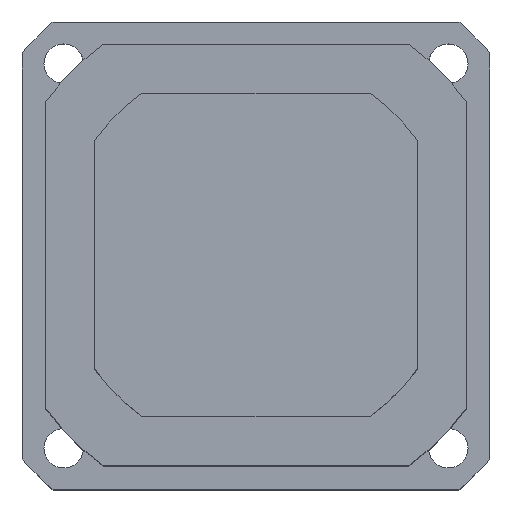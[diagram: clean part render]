
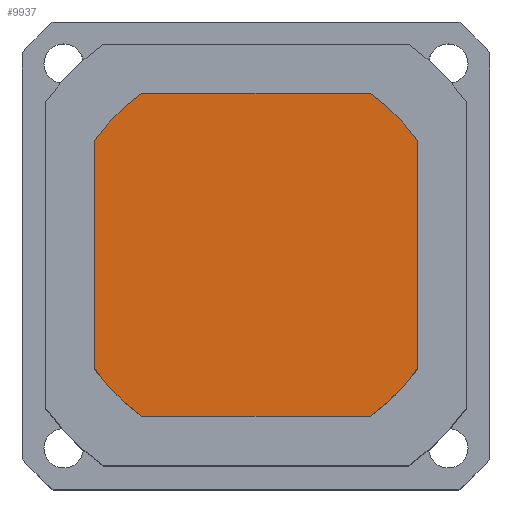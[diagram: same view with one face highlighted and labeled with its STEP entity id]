
A CAD part, top view. The second image highlights one B-rep face of the part: STEP entity #9937.
In plain terms, the highlighted planar face has unit normal (0, 0, 1).
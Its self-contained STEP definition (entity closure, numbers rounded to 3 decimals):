
#2366=CIRCLE('',#10841,60.);
#2367=CIRCLE('',#10843,60.);
#2368=CIRCLE('',#10845,60.);
#2369=CIRCLE('',#10847,60.);
#3330=VERTEX_POINT('',#15314);
#3331=VERTEX_POINT('',#15316);
#3332=VERTEX_POINT('',#15320);
#3333=VERTEX_POINT('',#15322);
#3338=VERTEX_POINT('',#15338);
#3339=VERTEX_POINT('',#15340);
#3340=VERTEX_POINT('',#15344);
#3341=VERTEX_POINT('',#15346);
#4299=LINE('',#15315,#11928);
#4302=LINE('',#15321,#11931);
#4305=LINE('',#15339,#11934);
#4308=LINE('',#15345,#11937);
#5333=EDGE_CURVE('',#3331,#3330,#4299,.T.);
#5336=EDGE_CURVE('',#3333,#3332,#4302,.T.);
#5343=EDGE_CURVE('',#3339,#3338,#4305,.T.);
#5346=EDGE_CURVE('',#3341,#3340,#4308,.T.);
#5348=EDGE_CURVE('',#3333,#3340,#2366,.T.);
#5349=EDGE_CURVE('',#3339,#3332,#2367,.T.);
#5350=EDGE_CURVE('',#3331,#3338,#2368,.T.);
#5351=EDGE_CURVE('',#3341,#3330,#2369,.T.);
#7528=ORIENTED_EDGE('',*,*,#5333,.T.);
#7529=ORIENTED_EDGE('',*,*,#5351,.F.);
#7530=ORIENTED_EDGE('',*,*,#5346,.T.);
#7531=ORIENTED_EDGE('',*,*,#5348,.F.);
#7532=ORIENTED_EDGE('',*,*,#5336,.T.);
#7533=ORIENTED_EDGE('',*,*,#5349,.F.);
#7534=ORIENTED_EDGE('',*,*,#5343,.T.);
#7535=ORIENTED_EDGE('',*,*,#5350,.F.);
#8723=EDGE_LOOP('',(#7528,#7529,#7530,#7531,#7532,#7533,#7534,#7535));
#9387=FACE_BOUND('',#8723,.T.);
#9937=ADVANCED_FACE('',(#9387),#12299,.F.);
#10841=AXIS2_PLACEMENT_3D('',#15349,#18685,#18686);
#10843=AXIS2_PLACEMENT_3D('',#15351,#18689,#18690);
#10845=AXIS2_PLACEMENT_3D('',#15353,#18693,#18694);
#10847=AXIS2_PLACEMENT_3D('',#15355,#18697,#18698);
#10848=AXIS2_PLACEMENT_3D('',#15356,#18699,$);
#11928=VECTOR('',#18655,1.);
#11931=VECTOR('',#18659,1.);
#11934=VECTOR('',#18677,1.);
#11937=VECTOR('',#18681,1.);
#12299=PLANE('',#10848);
#15314=CARTESIAN_POINT('',(-49.,-34.627,45.));
#15315=CARTESIAN_POINT('',(-49.,34.627,45.));
#15316=CARTESIAN_POINT('',(-49.,34.627,45.));
#15320=CARTESIAN_POINT('',(49.,34.627,45.));
#15321=CARTESIAN_POINT('',(49.,-34.627,45.));
#15322=CARTESIAN_POINT('',(49.,-34.627,45.));
#15338=CARTESIAN_POINT('',(-34.627,49.,45.));
#15339=CARTESIAN_POINT('',(34.627,49.,45.));
#15340=CARTESIAN_POINT('',(34.627,49.,45.));
#15344=CARTESIAN_POINT('',(34.627,-49.,45.));
#15345=CARTESIAN_POINT('',(-34.627,-49.,45.));
#15346=CARTESIAN_POINT('',(-34.627,-49.,45.));
#15349=CARTESIAN_POINT('',(0.,0.,45.));
#15351=CARTESIAN_POINT('',(0.,0.,45.));
#15353=CARTESIAN_POINT('',(0.,0.,45.));
#15355=CARTESIAN_POINT('',(0.,0.,45.));
#15356=CARTESIAN_POINT('',(0.,0.,45.));
#18655=DIRECTION('',(0.,-1.,0.));
#18659=DIRECTION('',(0.,1.,0.));
#18677=DIRECTION('',(-1.,0.,0.));
#18681=DIRECTION('',(1.,0.,0.));
#18685=DIRECTION('',(0.,0.,-1.));
#18686=DIRECTION('',(-60.,0.,0.));
#18689=DIRECTION('',(0.,0.,-1.));
#18690=DIRECTION('',(-60.,0.,0.));
#18693=DIRECTION('',(0.,0.,-1.));
#18694=DIRECTION('',(-60.,0.,0.));
#18697=DIRECTION('',(0.,0.,-1.));
#18698=DIRECTION('',(-60.,0.,0.));
#18699=DIRECTION('',(0.,0.,-1.));
